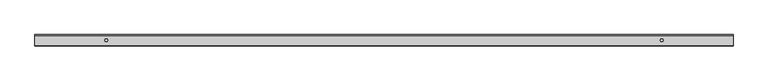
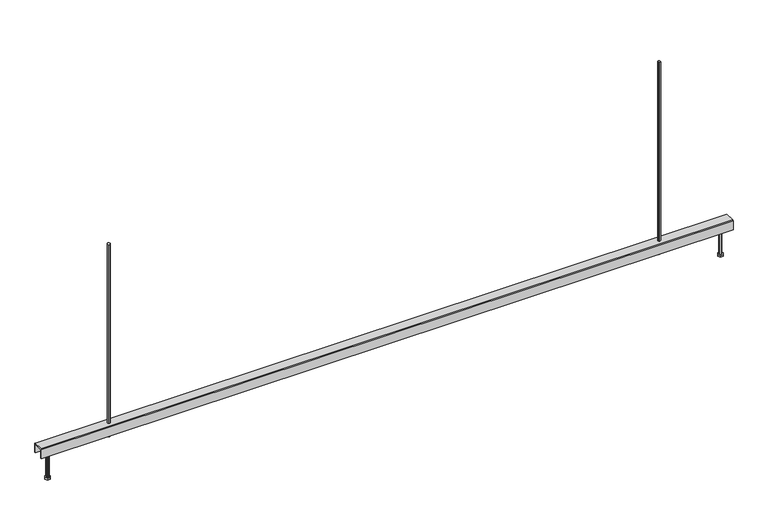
"""IFC4 building model written with IfcOpenShell, lengths in millimetres: proxy geometry, Beared-Hanger : BearedHanger."""

from ifc_helpers import new_model, si_unit, frame, origin, place, context, project, spatial, polyline, outline, extrude, source, transform, mapped, element, save


def mechanical_equipment_2392824e(model_context):
    return source(origin(), model_context, "Body", "SweptSolid", [
        extrude(outline(polyline([(1180.1635754, -17.3962402), (1180.1635754, 16.7883301), (1209.9804699, 16.7883301), (1209.9804699, -17.3962402), (1180.1635754, -17.3962402)])), frame((0.0, 0.0, -708.0972816), z_axis=(0.0, 0.0, 1.0), x_axis=(1.0, 0.0, 0.0)), (0.0, 0.0, 1.0), 10.0),
        extrude(outline(polyline([(1185.0720227, 0.0), (1190.0720227, 8.659668), (1200.0720227, 8.659668), (1205.0720227, 0.0), (1200.0720227, -8.659668), (1190.0720227, -8.659668), (1185.0720227, 0.0)])), frame((0.0, 0.0, -804.6814491), z_axis=(0.0, 0.0, 1.0), x_axis=(1.0, 0.0, 0.0)), (0.0, 0.0, 1.0), 6.6101074),
        extrude(outline(polyline([(1195.0720227, 5.0), (1198.6071789, 3.5351562), (1200.0720227, 0.0), (1198.6071789, -3.5351563), (1195.0720227, -5.0), (1191.5368664, -3.5351563), (1190.0714123, 0.0), (1191.5368664, 3.5351562), (1195.0720227, 5.0)])), frame((0.0, 0.0, -798.0713417), z_axis=(0.0, 0.0, 1.0), x_axis=(1.0, 0.0, 0.0)), (0.0, 0.0, 1.0), 89.9740601),
        extrude(outline(polyline([(-1205.0720227, 0.0), (-1200.0720227, 8.659668), (-1190.0720227, 8.659668), (-1185.0720227, 0.0), (-1190.0720227, -8.659668), (-1200.0720227, -8.659668), (-1205.0720227, 0.0)])), frame((0.0, 0.0, -804.6814491), z_axis=(0.0, 0.0, 1.0), x_axis=(1.0, 0.0, 0.0)), (0.0, 0.0, 1.0), 6.6101074),
        extrude(outline(polyline([(-1180.1635754, 16.7883301), (-1180.1635754, -17.3962402), (-1209.9804699, -17.3962402), (-1209.9804699, 16.7883301), (-1180.1635754, 16.7883301)])), frame((0.0, 0.0, -708.0972816), z_axis=(0.0, 0.0, 1.0), x_axis=(1.0, 0.0, 0.0)), (0.0, 0.0, 1.0), 10.0),
        extrude(outline(polyline([(-1195.0720227, 5.0), (-1191.5368664, 3.5351562), (-1190.0720227, 0.0), (-1191.5368664, -3.5351563), (-1195.0720227, -5.0), (-1198.6071789, -3.5351563), (-1200.072633, 0.0), (-1198.6071789, 3.5351562), (-1195.0720227, 5.0)])), frame((0.0, 0.0, -798.0713417), z_axis=(0.0, 0.0, 1.0), x_axis=(1.0, 0.0, 0.0)), (0.0, 0.0, 1.0), 89.9740601),
        extrude(outline(polyline([(962.5202942, -17.3962402), (962.5202942, 16.7883301), (992.3371887, 16.7883301), (992.3371887, -17.3962402), (962.5202942, -17.3962402)])), frame((0.0, 0.0, -708.0972816), z_axis=(0.0, 0.0, 1.0), x_axis=(1.0, 0.0, 0.0)), (0.0, 0.0, 1.0), 10.0),
        extrude(outline(polyline([(977.4287415, 5.0), (980.9638977, 3.5351562), (982.4293518, 0.0), (980.9638977, -3.5351563), (977.4287415, -5.0), (973.8935852, -3.5351563), (972.4287415, 0.0), (973.8935852, 3.5351562), (977.4287415, 5.0)])), frame((0.0, 0.0, -721.6818763), z_axis=(0.0, 0.0, 1.0), x_axis=(1.0, 0.0, 0.0)), (0.0, 0.0, 1.0), 721.6818763),
        extrude(outline(polyline([(-962.5202942, 16.7883301), (-962.5202942, -17.3962402), (-992.3371887, -17.3962402), (-992.3371887, 16.7883301), (-962.5202942, 16.7883301)])), frame((0.0, 0.0, -708.0972816), z_axis=(0.0, 0.0, 1.0), x_axis=(1.0, 0.0, 0.0)), (0.0, 0.0, 1.0), 10.0),
        extrude(outline(polyline([(-977.4287415, 5.0), (-973.8935852, 3.5351563), (-972.4287415, 0.0), (-973.8935852, -3.5351562), (-977.4287415, -5.0), (-980.9638977, -3.5351562), (-982.4293518, 0.0), (-980.9638977, 3.5351563), (-977.4287415, 5.0)])), frame((0.0, 0.0, -721.6818763), z_axis=(0.0, 0.0, 1.0), x_axis=(1.0, 0.0, 0.0)), (0.0, 0.0, 1.0), 721.6818763),
        extrude(outline(polyline([(-17.8259277, -671.6818763), (17.1740723, -671.6818763), (19.6740723, -674.1815712), (19.6740723, -708.0972816), (16.7883301, -708.0972816), (16.7883301, -674.6817543), (-17.3962402, -674.6817543), (-17.3962402, -708.0972816), (-20.3259277, -708.0972816), (-20.3259277, -674.1815712), (-17.8259277, -671.6818763)])), frame((-1228.5842896, 0.0, 0.0), z_axis=(1.0, 0.0, 0.0), x_axis=(0.0, 1.0, 0.0)), (0.0, 0.0, 1.0), 2457.1685791),
    ])


if __name__ == "__main__":
    model = new_model("IFC4")
    model_context = context("Model", 3, world=origin())
    ifc_project = project(units=[si_unit("LENGTHUNIT", "METRE", prefix="MILLI")], contexts=[model_context])
    site = spatial("IfcSite", under=ifc_project)
    building = spatial("IfcBuilding", under=site)
    placement = place(None, origin())
    mechanical_equipment_shape = mechanical_equipment_2392824e(model_context)
    element("IfcBuildingElementProxy", 1, Name="Beared-Hanger : BearedHanger", ObjectType="Beared-Hanger : BearedHanger", at=placement, inside=building, context=model_context, shape_type="MappedRepresentation", body=[
        mapped(mechanical_equipment_shape, transform((0.0, 0.0, 0.0), x_axis=(1.0, 0.0, 0.0), y_axis=(0.0, 1.0, 0.0), z_axis=(0.0, 0.0, 1.0))),
    ])
    save(model, "model.ifc")
